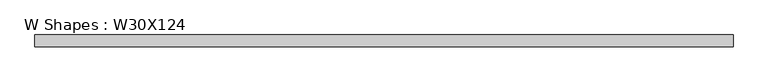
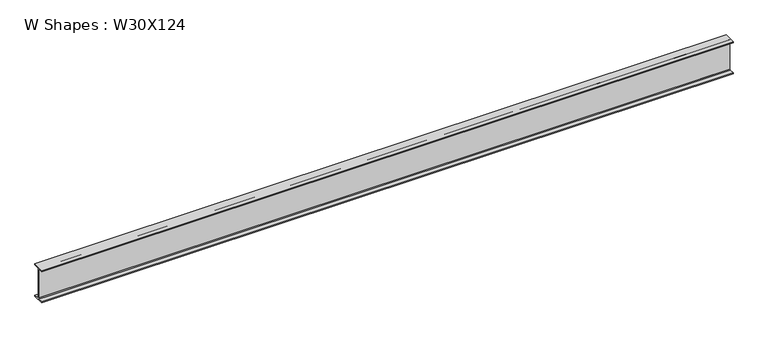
"""IFC4 building model written with IfcOpenShell, lengths in millimetres: beam geometry, W Shapes : W30X124."""

from ifc_helpers import new_model, si_unit, point, frame, frame_2d, origin, place, context, project, spatial, polyline, circle_curve, trimmed, segment, composite_curve, outline, extrude, source, transform, mapped, element, save


def w_shapes_w30x124_addc17b6(model_context):
    return source(origin(), model_context, "Body", "SweptSolid", [
        extrude(outline(composite_curve([segment(polyline([(133.35, -359.918), (133.35, -383.54), (-133.35, -383.54), (-133.35, -359.918), (-24.003, -359.918)]), True, "CONTINUOUS"), segment(trimmed(circle_curve(frame_2d((-24.003, -343.408)), 16.51), [point((-24.003, -359.918))], [point((-7.493, -343.408))], True, "CARTESIAN"), True, "CONTINUOUS"), segment(polyline([(-7.493, -343.408), (-7.493, 343.408)]), True, "CONTINUOUS"), segment(trimmed(circle_curve(frame_2d((-24.003, 343.408)), 16.51), [point((-7.493, 343.408))], [point((-24.003, 359.918))], True, "CARTESIAN"), True, "CONTINUOUS"), segment(polyline([(-24.003, 359.918), (-133.35, 359.918), (-133.35, 383.54), (133.35, 383.54), (133.35, 359.918), (24.003, 359.918)]), True, "CONTINUOUS"), segment(trimmed(circle_curve(frame_2d((24.003, 343.408)), 16.51), [point((24.003, 359.918))], [point((7.493, 343.408))], True, "CARTESIAN"), True, "CONTINUOUS"), segment(polyline([(7.493, 343.408), (7.493, -343.408)]), True, "CONTINUOUS"), segment(trimmed(circle_curve(frame_2d((24.003, -343.408)), 16.51), [point((7.493, -343.408))], [point((24.003, -359.918))], True, "CARTESIAN"), True, "CONTINUOUS"), segment(polyline([(24.003, -359.918), (133.35, -359.918)]), True, "CONTINUOUS")], self_intersect=False)), frame((-7789.1789974, 0.0, 0.0), z_axis=(1.0, 0.0, 0.0), x_axis=(0.0, 1.0, 0.0)), (0.0, 0.0, 1.0), 15578.3580178),
    ])


if __name__ == "__main__":
    model = new_model("IFC4")
    model_context = context("Model", 3, world=origin())
    ifc_project = project(units=[si_unit("LENGTHUNIT", "METRE", prefix="MILLI")], contexts=[model_context])
    site = spatial("IfcSite", under=ifc_project)
    building = spatial("IfcBuilding", under=site)
    placement = place(None, origin())
    w_shapes_w30x124_shape = w_shapes_w30x124_addc17b6(model_context)
    element("IfcBeam", 1, ObjectType="W Shapes : W30X124", at=placement, inside=building, context=model_context, shape_type="MappedRepresentation", body=[
        mapped(w_shapes_w30x124_shape, transform((0.0, 0.0, 0.0), x_axis=(1.0, 0.0, 0.0), y_axis=(0.0, 1.0, 0.0), z_axis=(0.0, 0.0, 1.0))),
    ])
    save(model, "model.ifc")
